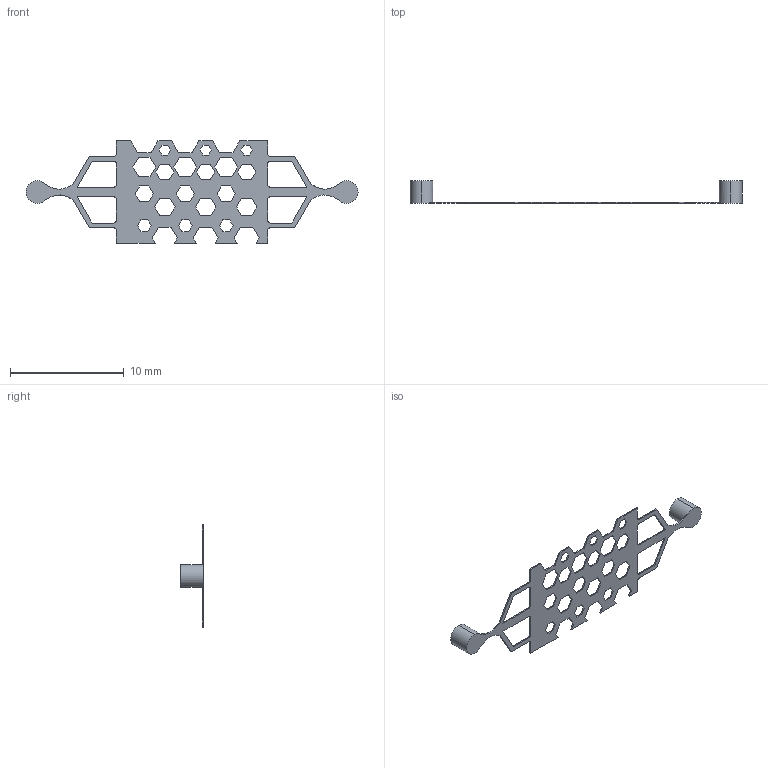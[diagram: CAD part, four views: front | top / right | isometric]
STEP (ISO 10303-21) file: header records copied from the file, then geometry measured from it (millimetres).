
FILE_DESCRIPTION (( 'STEP AP203' ), '1' );
FILE_NAME ('CHIP HAI.STEP', '2024-02-22T07:42:54', ( '' ), ( '' ), 'SwSTEP 2.0', 'SolidWorks 2020', '' );
FILE_SCHEMA (( 'CONFIG_CONTROL_DESIGN' ));
Length unit declared in the file: millimetre
Products named in the file (1): CHIP HAI
Bounding box: 29.22 x 2 x 9.02 mm (x, y, z)
Volume: 22.3 mm3; surface area: 251.2 mm2
Topology: 1 solids, 1 shells, 192 faces, 570 edges, 380 vertices
Faces by surface type: plane 172, cylinder 16, bspline 4
Entity records: 6519 total; most frequent: CARTESIAN_POINT 1195, ORIENTED_EDGE 1140, DIRECTION 976, EDGE_CURVE 570, LINE 526, VECTOR 526, VERTEX_POINT 380, EDGE_LOOP 236
